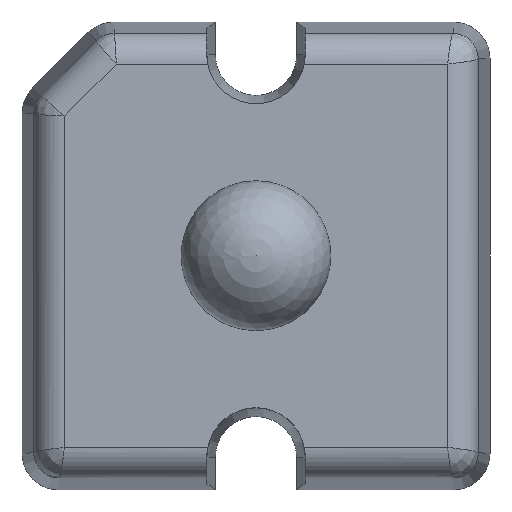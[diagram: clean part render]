
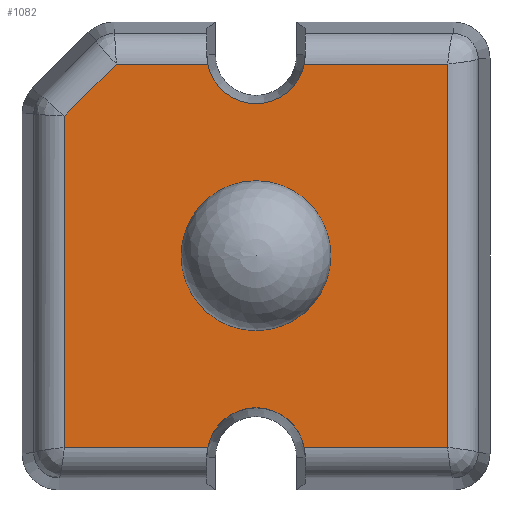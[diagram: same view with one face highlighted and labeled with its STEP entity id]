
A CAD part, top view. The second image highlights one B-rep face of the part: STEP entity #1082.
In plain terms, the highlighted planar face has unit normal (0, 0, 1).
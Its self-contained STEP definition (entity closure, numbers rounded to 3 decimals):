
#47=FACE_BOUND('',#410,.T.);
#64=CIRCLE('',#1203,0.8);
#66=CIRCLE('',#1210,0.8);
#67=CIRCLE('',#1211,1.22);
#97=LINE('',#1848,#205);
#98=LINE('',#1882,#206);
#99=LINE('',#1884,#207);
#100=LINE('',#1886,#208);
#101=LINE('',#1888,#209);
#102=LINE('',#1892,#210);
#103=LINE('',#1893,#211);
#205=VECTOR('',#1333,10.);
#206=VECTOR('',#1336,10.);
#207=VECTOR('',#1337,10.);
#208=VECTOR('',#1338,10.);
#209=VECTOR('',#1339,10.);
#210=VECTOR('',#1342,10.);
#211=VECTOR('',#1343,10.);
#343=FACE_OUTER_BOUND('',#409,.T.);
#409=EDGE_LOOP('',(#769,#770,#771,#772,#773,#774,#775,#776,#777));
#410=EDGE_LOOP('',(#778));
#482=VERTEX_POINT('',#1813);
#485=VERTEX_POINT('',#1822);
#492=VERTEX_POINT('',#1847);
#493=VERTEX_POINT('',#1881);
#494=VERTEX_POINT('',#1883);
#495=VERTEX_POINT('',#1885);
#496=VERTEX_POINT('',#1887);
#497=VERTEX_POINT('',#1889);
#498=VERTEX_POINT('',#1891);
#499=VERTEX_POINT('',#1894);
#587=EDGE_CURVE('',#482,#485,#64,.T.);
#597=EDGE_CURVE('',#482,#492,#97,.T.);
#599=EDGE_CURVE('',#493,#485,#98,.T.);
#600=EDGE_CURVE('',#494,#493,#99,.T.);
#601=EDGE_CURVE('',#495,#494,#100,.T.);
#602=EDGE_CURVE('',#496,#495,#101,.T.);
#603=EDGE_CURVE('',#496,#497,#66,.T.);
#604=EDGE_CURVE('',#498,#497,#102,.T.);
#605=EDGE_CURVE('',#492,#498,#103,.T.);
#606=EDGE_CURVE('',#499,#499,#67,.T.);
#769=ORIENTED_EDGE('',*,*,#587,.T.);
#770=ORIENTED_EDGE('',*,*,#599,.F.);
#771=ORIENTED_EDGE('',*,*,#600,.F.);
#772=ORIENTED_EDGE('',*,*,#601,.F.);
#773=ORIENTED_EDGE('',*,*,#602,.F.);
#774=ORIENTED_EDGE('',*,*,#603,.T.);
#775=ORIENTED_EDGE('',*,*,#604,.F.);
#776=ORIENTED_EDGE('',*,*,#605,.F.);
#777=ORIENTED_EDGE('',*,*,#597,.F.);
#778=ORIENTED_EDGE('',*,*,#606,.T.);
#1037=PLANE('',#1209);
#1082=ADVANCED_FACE('',(#343,#47),#1037,.T.);
#1203=AXIS2_PLACEMENT_3D('',#1827,#1313,#1314);
#1209=AXIS2_PLACEMENT_3D('',#1880,#1334,#1335);
#1210=AXIS2_PLACEMENT_3D('',#1890,#1340,#1341);
#1211=AXIS2_PLACEMENT_3D('',#1895,#1344,#1345);
#1313=DIRECTION('center_axis',(0.,0.,-1.));
#1314=DIRECTION('ref_axis',(1.,0.,0.));
#1333=DIRECTION('',(1.,0.,0.));
#1334=DIRECTION('center_axis',(0.,0.,1.));
#1335=DIRECTION('ref_axis',(1.,0.,0.));
#1336=DIRECTION('',(1.,0.,0.));
#1337=DIRECTION('',(0.707,0.707,0.));
#1338=DIRECTION('',(0.,1.,0.));
#1339=DIRECTION('',(-1.,0.,0.));
#1340=DIRECTION('center_axis',(0.,0.,-1.));
#1341=DIRECTION('ref_axis',(1.,0.,0.));
#1342=DIRECTION('',(-1.,0.,0.));
#1343=DIRECTION('',(0.,-1.,0.));
#1344=DIRECTION('center_axis',(0.,0.,-1.));
#1345=DIRECTION('ref_axis',(-1.,0.,0.));
#1813=CARTESIAN_POINT('',(0.785,3.12,2.65));
#1822=CARTESIAN_POINT('',(-0.785,3.12,2.65));
#1827=CARTESIAN_POINT('Origin',(0.,3.275,2.65));
#1847=CARTESIAN_POINT('',(3.12,3.12,2.65));
#1848=CARTESIAN_POINT('',(1.905,3.12,2.65));
#1880=CARTESIAN_POINT('Origin',(0.,0.,2.65));
#1881=CARTESIAN_POINT('',(-2.274,3.12,2.65));
#1882=CARTESIAN_POINT('',(1.905,3.12,2.65));
#1883=CARTESIAN_POINT('',(-3.12,2.274,2.65));
#1884=CARTESIAN_POINT('',(-2.385,3.01,2.65));
#1885=CARTESIAN_POINT('',(-3.12,-3.12,2.65));
#1886=CARTESIAN_POINT('',(-3.12,1.905,2.65));
#1887=CARTESIAN_POINT('',(-0.785,-3.12,2.65));
#1888=CARTESIAN_POINT('',(-1.905,-3.12,2.65));
#1889=CARTESIAN_POINT('',(0.785,-3.12,2.65));
#1890=CARTESIAN_POINT('Origin',(0.,-3.275,2.65));
#1891=CARTESIAN_POINT('',(3.12,-3.12,2.65));
#1892=CARTESIAN_POINT('',(-1.905,-3.12,2.65));
#1893=CARTESIAN_POINT('',(3.12,-1.905,2.65));
#1894=CARTESIAN_POINT('',(1.22,0.,2.65));
#1895=CARTESIAN_POINT('Origin',(0.,0.,2.65));
